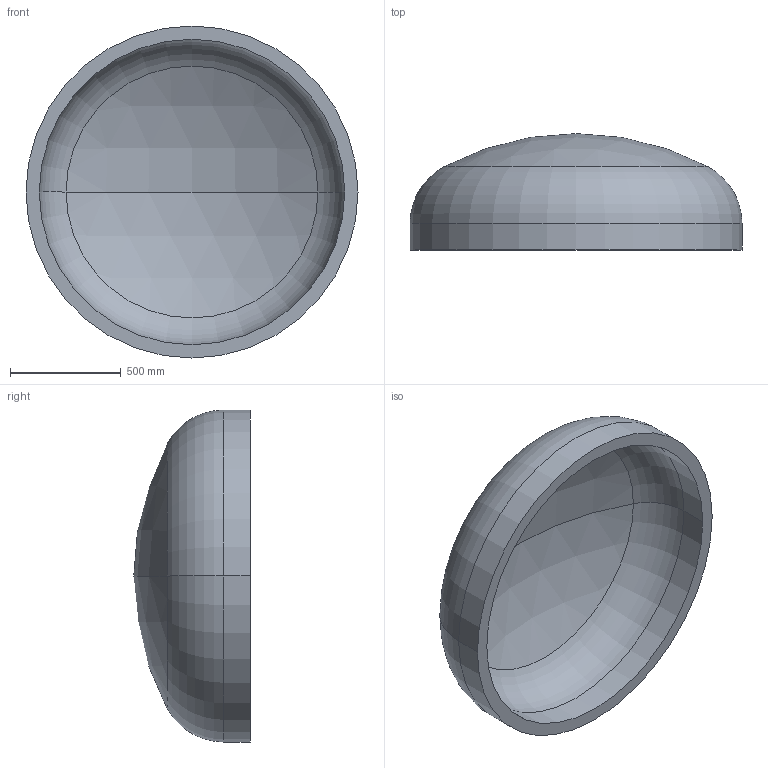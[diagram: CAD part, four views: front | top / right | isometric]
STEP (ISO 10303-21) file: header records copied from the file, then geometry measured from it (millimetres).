
FILE_DESCRIPTION (( 'STEP AP203' ), '1' );
FILE_NAME ('DIN 28013 Korbbogenform_-_Boden DIN 28013 - 1500 x 120 - I - s=60.step', '2016-07-01T10:50:46', ( '' ), ( '' ), 'SwSTEP 2.0', 'SolidWorks 2013', '' );
FILE_SCHEMA (( 'CONFIG_CONTROL_DESIGN' ));
Length unit declared in the file: millimetre
Products named in the file (1): DIN 28013 Korbbogenform_-_Boden DIN 28013 - 1500 x 120 - I - s=60
Bounding box: 1500 x 526.01 x 1500 mm (x, y, z)
Volume: 171880961.4 mm3; surface area: 6008337.3 mm2
Topology: 1 solids, 1 shells, 13 faces, 24 edges, 14 vertices
Faces by surface type: torus 4, cylinder 4, sphere 4, plane 1
Entity records: 407 total; most frequent: DIRECTION 72, CARTESIAN_POINT 52, ORIENTED_EDGE 48, AXIS2_PLACEMENT_3D 34, EDGE_CURVE 24, CIRCLE 20, VERTEX_POINT 14, EDGE_LOOP 14
